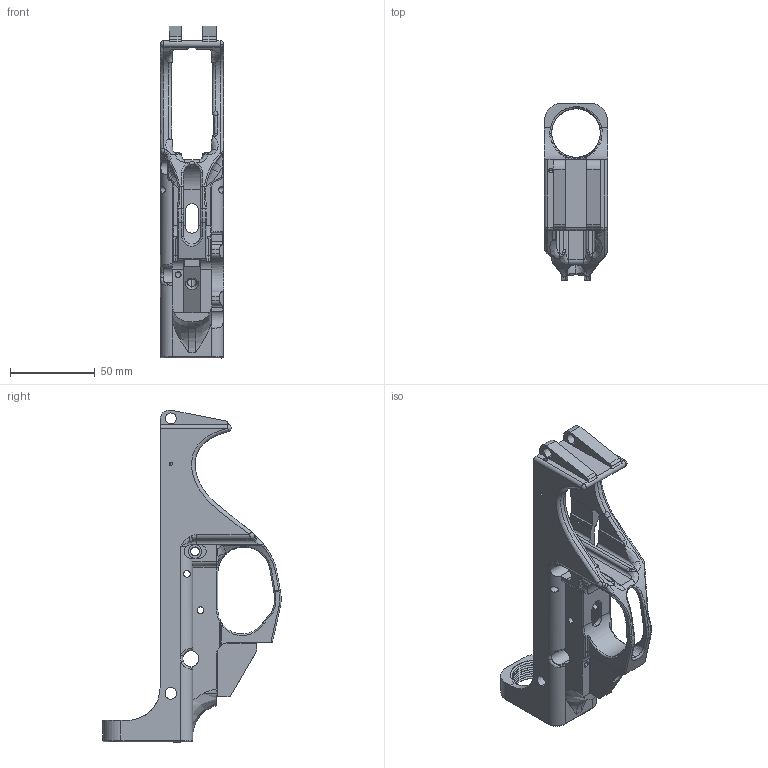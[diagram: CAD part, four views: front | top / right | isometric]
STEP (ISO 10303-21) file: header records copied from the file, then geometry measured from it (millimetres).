
FILE_DESCRIPTION (( 'STEP AP214' ), '1' );
FILE_NAME ('Hermes_Vanilla.STEP', '2013-10-07T04:53:37', ( 'elpi' ), ( '' ), 'SwSTEP 2.0', 'SolidWorks 2013', '' );
FILE_SCHEMA (( 'AUTOMOTIVE_DESIGN' ));
Length unit declared in the file: millimetre
Products named in the file (1): Hermes_Vanilla
Bounding box: 37.13 x 104.94 x 195.51 mm (x, y, z)
Volume: 130319.1 mm3; surface area: 50199.5 mm2
Topology: 1 solids, 1 shells, 541 faces, 1484 edges, 917 vertices
Faces by surface type: cylinder 231, bspline 125, plane 118, torus 40, sphere 17, cone 10
Entity records: 49037 total; most frequent: CARTESIAN_POINT 36537, ORIENTED_EDGE 2930, DIRECTION 2253, EDGE_CURVE 1465, VERTEX_POINT 917, AXIS2_PLACEMENT_3D 849, EDGE_LOOP 574, LINE 555
